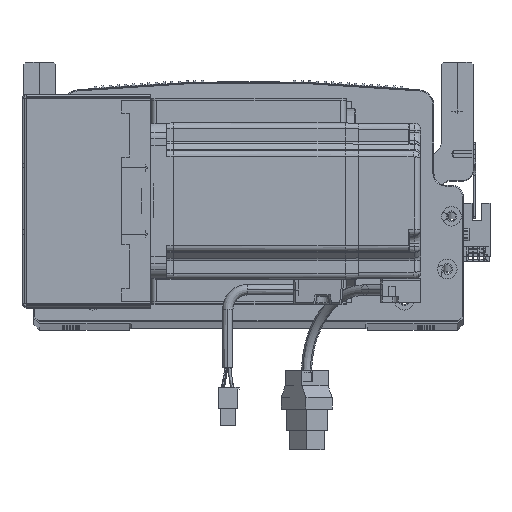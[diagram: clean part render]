
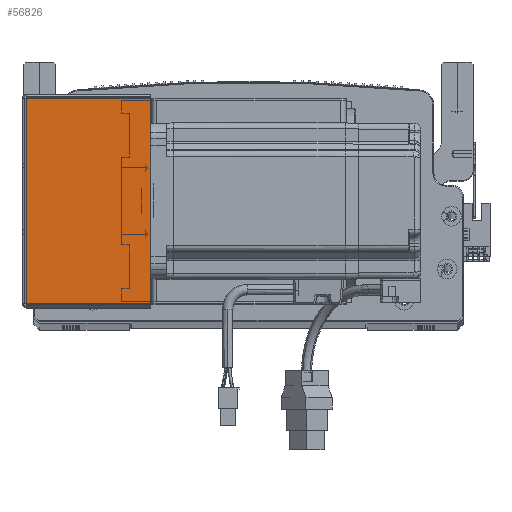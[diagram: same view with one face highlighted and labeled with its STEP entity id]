
A CAD part, top view. The second image highlights one B-rep face of the part: STEP entity #56826.
In plain terms, the highlighted planar face has unit normal (0, 0, 1) as drawn and (0, 0, -1) by its records, which use the part's own axes.
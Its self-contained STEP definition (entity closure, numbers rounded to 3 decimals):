
#324 = CARTESIAN_POINT ( 'NONE',  ( 0.737, 105.293, -205.5 ) ) ;
#411 = FACE_OUTER_BOUND ( 'NONE', #73646, .T. ) ;
#974 = VECTOR ( 'NONE', #24862, 1000. ) ;
#5071 = CARTESIAN_POINT ( 'NONE',  ( 0.737, 0.707, -205.5 ) ) ;
#5970 = ORIENTED_EDGE ( 'NONE', *, *, #11475, .F. ) ;
#6092 = DIRECTION ( 'NONE',  ( 0., -1., 0. ) ) ;
#8873 = CARTESIAN_POINT ( 'NONE',  ( 64.5, 0.707, -205.5 ) ) ;
#11475 = EDGE_CURVE ( 'NONE', #60510, #78130, #13202, .T. ) ;
#13202 = LINE ( 'NONE', #76810, #67340 ) ;
#19669 = LINE ( 'NONE', #46429, #974 ) ;
#22854 = EDGE_CURVE ( 'NONE', #42825, #29402, #46950, .T. ) ;
#22897 = AXIS2_PLACEMENT_3D ( 'NONE', #31247, #44489, #72978 ) ;
#24862 = DIRECTION ( 'NONE',  ( 1., 0., 0. ) ) ;
#27097 = VECTOR ( 'NONE', #6092, 1000. ) ;
#27689 = DIRECTION ( 'NONE',  ( 0., -1., 0. ) ) ;
#29402 = VERTEX_POINT ( 'NONE', #8873 ) ;
#30324 = PLANE ( 'NONE',  #22897 ) ;
#31247 = CARTESIAN_POINT ( 'NONE',  ( 0., 0., -205.5 ) ) ;
#42825 = VERTEX_POINT ( 'NONE', #65976 ) ;
#44489 = DIRECTION ( 'NONE',  ( 0., 0., 1. ) ) ;
#45805 = EDGE_CURVE ( 'NONE', #60510, #42825, #62773, .T. ) ;
#46429 = CARTESIAN_POINT ( 'NONE',  ( 0., 0.707, -205.5 ) ) ;
#46950 = LINE ( 'NONE', #83820, #27097 ) ;
#56562 = DIRECTION ( 'NONE',  ( 1., 0., 0. ) ) ;
#56826 = ADVANCED_FACE ( 'NONE', ( #411 ), #30324, .F. ) ;
#57164 = CARTESIAN_POINT ( 'NONE',  ( 0., 105.293, -205.5 ) ) ;
#60510 = VERTEX_POINT ( 'NONE', #324 ) ;
#62773 = LINE ( 'NONE', #57164, #79390 ) ;
#63529 = ORIENTED_EDGE ( 'NONE', *, *, #45805, .T. ) ;
#65976 = CARTESIAN_POINT ( 'NONE',  ( 64.5, 105.293, -205.5 ) ) ;
#67340 = VECTOR ( 'NONE', #27689, 1000. ) ;
#70948 = ORIENTED_EDGE ( 'NONE', *, *, #22854, .T. ) ;
#71149 = EDGE_CURVE ( 'NONE', #78130, #29402, #19669, .T. ) ;
#72978 = DIRECTION ( 'NONE',  ( 1., 0., 0. ) ) ;
#73646 = EDGE_LOOP ( 'NONE', ( #5970, #63529, #70948, #80475 ) ) ;
#76810 = CARTESIAN_POINT ( 'NONE',  ( 0.737, 0., -205.5 ) ) ;
#78130 = VERTEX_POINT ( 'NONE', #5071 ) ;
#79390 = VECTOR ( 'NONE', #56562, 1000. ) ;
#80475 = ORIENTED_EDGE ( 'NONE', *, *, #71149, .F. ) ;
#83820 = CARTESIAN_POINT ( 'NONE',  ( 64.5, 0., -205.5 ) ) ;
